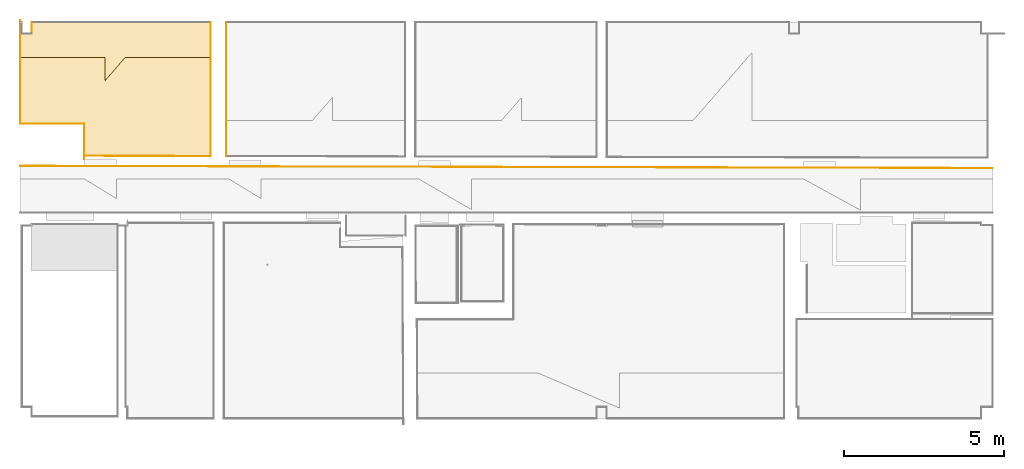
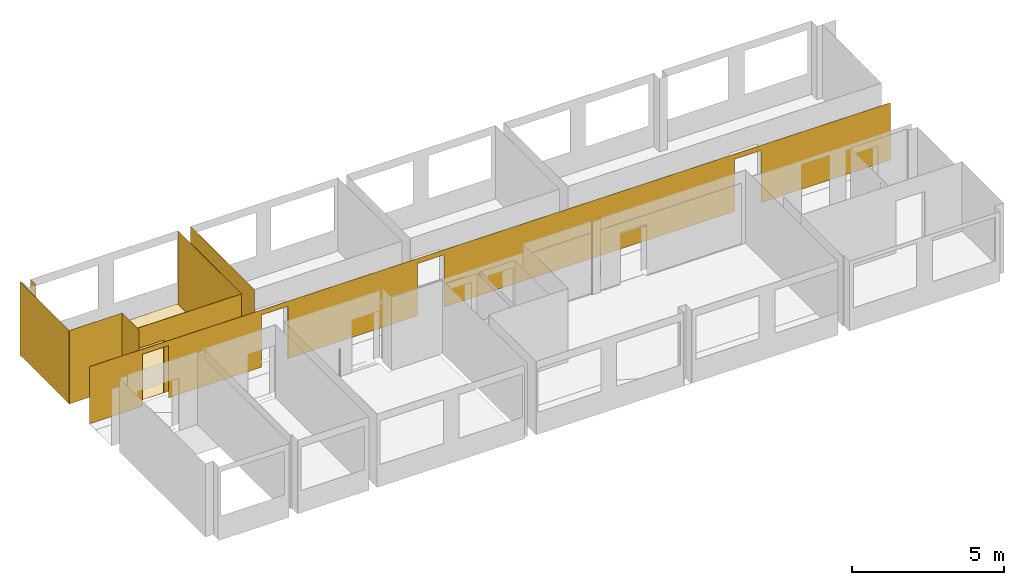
# One storey, part 6 of 16: 10 coverings, 5 openings.
"""IFC2X3 building model written with IfcOpenShell, lengths in millimetres."""

from ifc_helpers import new_model, entity, si_unit, converted_unit, derived_unit, money_unit, direction, frame, origin_with_axes, origin_2d_with_axis, place, context, subcontext, project, spatial, polyline, rectangle, outline, extrude, material, type_object, element, save


model = new_model("IFC2X3")

# Units and contexts
model_context = context("Model", 3, precision=0.01, world=origin_with_axes(), true_north=direction((0.0, 1.0)))
body_context = subcontext(model_context, "Body", "Model", "MODEL_VIEW")
ifc_project = project(units=[si_unit("LENGTHUNIT", "METRE", prefix="MILLI"), si_unit("AREAUNIT", "SQUARE_METRE"), si_unit("VOLUMEUNIT", "CUBIC_METRE"), converted_unit("PLANEANGLEUNIT", "DEGREE", entity("IfcPlaneAngleMeasure", 0.0174532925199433), si_unit("PLANEANGLEUNIT", "RADIAN"), dimensions=[0, 0, 0, 0, 0, 0, 0]), money_unit("EUR"), converted_unit("TIMEUNIT", "Year", entity("IfcTimeMeasure", 31556926.0), si_unit("TIMEUNIT", "SECOND"), dimensions=[0, 0, 1, 0, 0, 0, 0]), si_unit("MASSUNIT", "GRAM", prefix="KILO"), si_unit("THERMODYNAMICTEMPERATUREUNIT", "DEGREE_CELSIUS"), si_unit("LUMINOUSINTENSITYUNIT", "LUMEN"), si_unit("ENERGYUNIT", "JOULE", prefix="MEGA"), derived_unit("THERMALCONDUCTANCEUNIT", [(si_unit("POWERUNIT", "WATT"), 1), (si_unit("LENGTHUNIT", "METRE"), -1), (si_unit("THERMODYNAMICTEMPERATUREUNIT", "KELVIN"), -1)]), derived_unit("SPECIFICHEATCAPACITYUNIT", [(si_unit("ENERGYUNIT", "JOULE"), 1), (si_unit("MASSUNIT", "GRAM", prefix="KILO"), -1), (si_unit("THERMODYNAMICTEMPERATUREUNIT", "KELVIN"), -1)]), derived_unit("MASSDENSITYUNIT", [(si_unit("MASSUNIT", "GRAM", prefix="KILO"), 1), (si_unit("VOLUMEUNIT", "CUBIC_METRE"), -1)])], contexts=[model_context])

# Site, building, storey
site_placement = place(None, origin_with_axes())
site = spatial("IfcSite", under=ifc_project, at=site_placement, Name="Paldiski mnt 245/1, Tallinn, Harjumaa", CompositionType="COMPLEX")
building_placement = place(site_placement, origin_with_axes())
building = spatial("IfcBuilding", under=site, at=building_placement, Name="RKAS Hoone üldnimetus (kasutust iseloomustav) -> IFC Project Manager -> SOLIBRI", CompositionType="ELEMENT")
storey_placement = place(building_placement, frame((0.0, 0.0, 3300.0), z_axis=(0.0, 0.0, 1.0), x_axis=(1.0, 0.0, 0.0)))
storey = spatial("IfcBuildingStorey", under=building, at=storey_placement, Name="Teine korrus", CompositionType="ELEMENT", Elevation=3300.0)

# Coverings
ifc_material_1 = material(Name="SA- PM-2 vinüül hex")
covering_type_1 = type_object("IfcCoveringType", Name="SA- PM-2 vinüül hex 3", PredefinedType="FLOORING")
covering_1_placement = place(storey_placement, frame((-47650.00000000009, -1220.818220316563, 0.0), z_axis=(0.0, 0.0, 1.0), x_axis=(1.0, 0.0, 0.0)))
element("IfcCovering", 1, at=covering_1_placement, inside=storey, type_object=covering_type_1, material=ifc_material_1, Name="PM-2", PredefinedType="FLOORING", context=body_context, shape_type="SweptSolid", body=[
    extrude(outline(polyline([(0.0, 0.0), (0.0, -2071.304318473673), (2009.916769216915, -2071.304318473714), (2010.154304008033, -3075.657802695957), (5969.000000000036, -3084.529179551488), (5968.999985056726, 8.677215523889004e-05), (3284.983689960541, 3.223637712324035e-05), (2649.873496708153, -729.8840305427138), (2649.873530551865, -3.592560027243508e-06), (0.0, 0.0)])), origin_with_axes(), (0.0, 0.0, 1.0), 3.0),
])
ifc_material_2 = material(Name="SA- PM-3 vinüül rice")
covering_type_2 = type_object("IfcCoveringType", Name="SA- PM-3 vinüül rice 3", PredefinedType="FLOORING")
covering_2_placement = place(storey_placement, frame((-47650.00000000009, -1220.818220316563, 0.0), z_axis=(0.0, 0.0, 1.0), x_axis=(1.0, 0.0, 0.0)))
element("IfcCovering", 2, at=covering_2_placement, inside=storey, type_object=covering_type_2, material=ifc_material_2, Name="PM-3", PredefinedType="FLOORING", context=body_context, shape_type="SweptSolid", body=[
    extrude(outline(polyline([(0.0, 0.0), (2649.873505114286, 1.886666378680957e-05), (2649.873496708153, -729.8840305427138), (3284.983608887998, 4.487961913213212e-05), (5968.999973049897, 4.298368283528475e-05), (5968.999986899, 1112.087457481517), (5884.845889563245, 1112.087457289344), (5884.874170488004, 1124.707800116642), (4884.876681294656, 1126.94869437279), (4884.848400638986, 1114.328471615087), (360.000000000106, 1110.818220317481), (360.0000000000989, 750.818220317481), (0.0, 750.8182203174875), (0.0, 0.0)])), origin_with_axes(), (0.0, 0.0, 1.0), 3.0),
])
ifc_material_3 = material(Name="SA- Värv SM5(valge)")
covering_type_3 = type_object("IfcCoveringType", Name="SA- Värv SM5(valge) 5", PredefinedType="CLADDING")
covering_3_placement = place(storey_placement, frame((-41680.99999999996, -109.9999999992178, 0.0), z_axis=(0.0, 0.0, 1.0), x_axis=(0.0, -1.0, 0.0)))
element("IfcCovering", 3, at=covering_3_placement, inside=storey, type_object=covering_type_3, material=ifc_material_3, Name="SM5", PredefinedType="CLADDING", context=body_context, shape_type="SweptSolid", body=[
    extrude(outline(polyline([(0.0, -5.000000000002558), (4195.336195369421, -5.000000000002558), (4195.347399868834, 0.0), (0.0, 0.0), (0.0, -5.000000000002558)])), origin_with_axes(), (0.0, 0.0, 1.0), 2950.0),
])
covering_4_placement = place(storey_placement, frame((-41199.00000000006, -4306.427513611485, 0.0), z_axis=(0.0, 0.0, 1.0), x_axis=(0.0, 1.0, 0.0)))
element("IfcCovering", 4, at=covering_4_placement, inside=storey, type_object=covering_type_3, material=ifc_material_3, Name="SM5", PredefinedType="CLADDING", context=body_context, shape_type="SweptSolid", body=[
    extrude(outline(polyline([(-0.01120449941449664, -5.000000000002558), (4196.427513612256, -5.000000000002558), (4196.427513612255, 0.0), (0.0, 0.0), (-0.01120449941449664, -5.000000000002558)])), origin_with_axes(), (0.0, 0.0, 1.0), 2950.0),
])
covering_5_placement = place(storey_placement, frame((-47290.0, -469.9999999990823, 0.0), z_axis=(0.0, 0.0, 1.0), x_axis=(0.0, 1.0, 0.0)))
element("IfcCovering", 5, at=covering_5_placement, inside=storey, type_object=covering_type_3, material=ifc_material_3, Name="SM5", PredefinedType="CLADDING", context=body_context, shape_type="SweptSolid", body=[
    extrude(outline(polyline([(-5.000000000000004, -5.000000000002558), (359.9999999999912, -5.000000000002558), (359.9999999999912, 0.0), (0.0, 0.0), (-5.000000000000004, -5.000000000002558)])), origin_with_axes(), (0.0, 0.0, 1.0), 2950.0),
])
covering_6_placement = place(storey_placement, frame((-47650.00000000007, -3292.122538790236, 0.0), z_axis=(0.0, 0.0, 1.0), x_axis=(0.0, 1.0, 0.0)))
element("IfcCovering", 6, at=covering_6_placement, inside=storey, type_object=covering_type_3, material=ifc_material_3, Name="SM5", PredefinedType="CLADDING", context=body_context, shape_type="SweptSolid", body=[
    extrude(outline(polyline([(0.0, -5.000000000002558), (3184.122538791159, -5.000000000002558), (3247.12253879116, 0.0), (0.0, 0.0), (0.0, -5.000000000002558)])), origin_with_axes(), (0.0, 0.0, 1.0), 2950.0),
])
ifc_material_4 = material(Name="SA- Värv SM6(kollane)")
covering_type_4 = type_object("IfcCoveringType", Name="SA- Värv SM6(kollane) 5", PredefinedType="CLADDING")
covering_7_placement = place(storey_placement, frame((-47650.00000000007, -3292.122538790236, 0.0), z_axis=(0.0, 0.0, 1.0), x_axis=(1.0, 0.0, 0.0)))
element("IfcCovering", 7, at=covering_7_placement, inside=storey, type_object=covering_type_4, material=ifc_material_4, Name="SM6", PredefinedType="CLADDING", context=body_context, shape_type="SweptSolid", body=[
    extrude(outline(polyline([(0.0, 0.0), (2009.916769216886, 0.0), (2014.915586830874, 4.999999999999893), (0.0, 4.999999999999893), (0.0, 0.0)])), origin_with_axes(), (0.0, 0.0, 1.0), 2950.0),
])
covering_8_placement = place(storey_placement, frame((-45640.08323078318, -3292.122538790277, 0.0), z_axis=(0.0, 0.0, 1.0), x_axis=(0.0002365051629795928, -0.9999999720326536, 0.0)))
element("IfcCovering", 8, at=covering_8_placement, inside=storey, type_object=covering_type_4, material=ifc_material_4, Name="SM6", PredefinedType="CLADDING", context=body_context, shape_type="SweptSolid", body=[
    extrude(outline(polyline([(0.0, 0.0), (1112.35384373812, 0.0), (1004.365899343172, 4.999999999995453), (-4.998817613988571, 4.999999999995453), (0.0, 0.0)])), origin_with_axes(), (0.0, 0.0, 1.0), 2950.0),
])

# Covering, opening
covering_9_placement = place(storey_placement, frame((-45639.84569599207, -4296.47602301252, 0.0), z_axis=(0.0, 0.0, 1.0), x_axis=(0.9999974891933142, -0.002240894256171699, 0.0)))
covering_9 = element("IfcCovering", 9, at=covering_9_placement, inside=storey, type_object=covering_type_4, material=ifc_material_4, Name="SM6", PredefinedType="CLADDING", context=body_context, shape_type="SweptSolid", body=[
    extrude(outline(polyline([(5.000015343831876, 0.0), (3958.855635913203, 0.0), (3958.844431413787, 5.000000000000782), (4.987628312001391, 4.999999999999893), (5.000015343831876, 0.0)])), origin_with_axes(), (0.0, 0.0, 1.0), 2950.0),
])
opening_1_placement = place(covering_9_placement, frame((45630.10315472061, 4398.739303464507, -3300.0), z_axis=(0.0, 0.0, 1.0), x_axis=(0.9999974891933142, 0.002240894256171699, 0.0)))
element("IfcOpeningElement", 10, at=opening_1_placement, cuts=covering_9, Name="AVA", ObjectType="OPENING", context=body_context, shape_type="SweptSolid", body=[
    extrude(rectangle(XDim=1000.870258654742, YDim=2123.509706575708, at=origin_2d_with_axis()), frame((-45140.56916810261, -4319.218764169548, 4361.754853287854), z_axis=(-0.002240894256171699, -0.9999974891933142, 0.0), x_axis=(0.9999974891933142, -0.002240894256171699, 0.0)), (0.0, 0.0, -1.0), 41.61419738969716),
])

# Covering, openings
ifc_material_5 = material(Name="SA- Värv SM7(beez)")
covering_type_5 = type_object("IfcCoveringType", Name="SA- Värv SM7(beez) 5", PredefinedType="CLADDING")
covering_10_placement = place(storey_placement, frame((-17230.7410356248, -4676.001230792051, 0.0), z_axis=(0.0, 0.0, 1.0), x_axis=(-0.9999975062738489, 0.002233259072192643, 0.0)))
covering_10 = element("IfcCovering", 11, at=covering_10_placement, inside=storey, type_object=covering_type_5, material=ifc_material_5, Name="SM7", PredefinedType="CLADDING", context=body_context, shape_type="SweptSolid", body=[
    extrude(outline(polyline([(0.0, 0.0), (30419.82220522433, 0.0), (30419.82220522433, 5.000000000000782), (0.0, 5.000000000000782), (0.0, 0.0)])), origin_with_axes(), (0.0, 0.0, 1.0), 2300.0),
])
opening_2_placement = place(covering_10_placement, frame((-17220.25534470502, -4714.470278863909, -3300.0), z_axis=(0.0, 0.0, 1.0), x_axis=(-0.9999975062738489, -0.002233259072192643, 0.0)))
element("IfcOpeningElement", 12, at=opening_2_placement, cuts=covering_10, Name="AVA", ObjectType="OPENING", context=body_context, shape_type="SweptSolid", body=[
    extrude(rectangle(XDim=999.9999999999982, YDim=2100.0, at=origin_2d_with_axis()), frame((-45140.62103276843, -4535.130555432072, 4350.0), z_axis=(0.002233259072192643, 0.9999975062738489, 0.0), x_axis=(-0.9999975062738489, 0.002233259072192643, 0.0)), (0.0, 0.0, -1.0), 218.8065399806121),
])
opening_3_placement = place(covering_10_placement, frame((-17220.25534470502, -4714.470278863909, -3300.0), z_axis=(0.0, 0.0, 1.0), x_axis=(-0.9999975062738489, -0.002233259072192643, 0.0)))
element("IfcOpeningElement", 13, at=opening_3_placement, cuts=covering_10, Name="AVA", ObjectType="OPENING", context=body_context, shape_type="SweptSolid", body=[
    extrude(rectangle(XDim=999.9999999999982, YDim=2100.0, at=origin_2d_with_axis()), frame((-22650.79893497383, -4535.130555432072, 4350.0), z_axis=(0.002233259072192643, 0.9999975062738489, 0.0), x_axis=(-0.9999975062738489, 0.002233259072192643, 0.0)), (0.0, 0.0, -1.0), 218.8065399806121),
])
opening_4_placement = place(covering_10_placement, frame((-17220.25534470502, -4714.470278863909, -3300.0), z_axis=(0.0, 0.0, 1.0), x_axis=(-0.9999975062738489, -0.002233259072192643, 0.0)))
element("IfcOpeningElement", 14, at=opening_4_placement, cuts=covering_10, Name="AVA", ObjectType="OPENING", context=body_context, shape_type="SweptSolid", body=[
    extrude(rectangle(XDim=999.9999999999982, YDim=2100.0, at=origin_2d_with_axis()), frame((-34685.85960379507, -4535.130555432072, 4350.0), z_axis=(0.002233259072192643, 0.9999975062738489, 0.0), x_axis=(-0.9999975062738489, 0.002233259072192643, 0.0)), (0.0, 0.0, -1.0), 218.8065399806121),
])
opening_5_placement = place(covering_10_placement, frame((-17220.25534470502, -4714.470278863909, -3300.0), z_axis=(0.0, 0.0, 1.0), x_axis=(-0.9999975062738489, -0.002233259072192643, 0.0)))
element("IfcOpeningElement", 15, at=opening_5_placement, cuts=covering_10, Name="AVA", ObjectType="OPENING", context=body_context, shape_type="SweptSolid", body=[
    extrude(rectangle(XDim=999.9999999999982, YDim=2100.0, at=origin_2d_with_axis()), frame((-40615.35656185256, -4535.130555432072, 4350.0), z_axis=(0.002233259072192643, 0.9999975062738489, 0.0), x_axis=(-0.9999975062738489, 0.002233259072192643, 0.0)), (0.0, 0.0, -1.0), 218.8065399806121),
])

save(model, "model.ifc")
